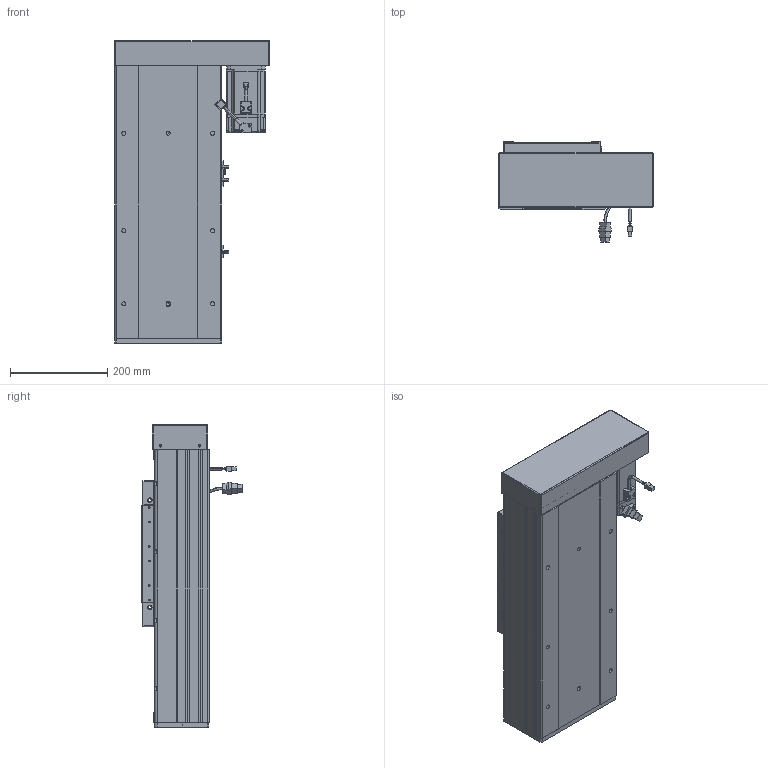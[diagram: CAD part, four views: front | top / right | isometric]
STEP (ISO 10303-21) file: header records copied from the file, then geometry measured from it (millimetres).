
FILE_DESCRIPTION (( 'STEP AP203' ), '1' );
FILE_NAME ('RY220F-L2525-300-RK.SLDASM_150.step', '2022-07-04T01:34:40', ( '' ), ( '' ), 'SwSTEP 2.0', 'SolidWorks 2016', '' );
FILE_SCHEMA (( 'CONFIG_CONTROL_DESIGN' ));
Length unit declared in the file: millimetre
Products named in the file (15): RY220F-祥凄詩湍-蛌殏-300_150; RY220F蛌殏菁釱-300_150; 侐源滅袉蝶; RY220F-詩湍揤踡輸; RY220F-蛌殏奻裔啣-300_150; RY220左右折电机安装板; RY220F臏賑釱25-32佪裝; RY220F-672覜茼んえ; RY220酘衵殏萇儂欶; 怢湛750W_ECMA-CX0807ES; 滅袉蝶18-24; 覜茼ん672; RY220F-L2525-300-RK.SLDASM_150; RY220F-滅鳥奻裔; RY220F綴裔啣
Assembly tree (21 placements, depth 2):
  RY220F-L2525-300-RK.SLDASM_150
    RY220F蛌殏菁釱-300_150
    RY220F-蛌殏奻裔啣-300_150  x2
    怢湛750W_ECMA-CX0807ES
    RY220F臏賑釱25-32佪裝
    RY220F-滅鳥奻裔
    滅袉蝶18-24  x3
    RY220F綴裔啣
    RY220F-祥凄詩湍-蛌殏-300_150
    RY220F-詩湍揤踡輸  x2
    覜茼ん672  x3
    RY220F-672覜茼んえ
    RY220左右折电机安装板
    RY220酘衵殏萇儂欶
    侐源滅袉蝶  x2
Bounding box: 317.5 x 205.27 x 621 mm (x, y, z)
Volume: 7036291.1 mm3; surface area: 1821851 mm2
Topology: 22 solids, 22 shells, 2090 faces, 5712 edges, 3610 vertices
Faces by surface type: cylinder 920, plane 888, cone 215, bspline 41, sphere 16, torus 10
Entity records: 64004 total; most frequent: CARTESIAN_POINT 17894, ORIENTED_EDGE 9398, DIRECTION 8946, EDGE_CURVE 4699, AXIS2_PLACEMENT_3D 3139, VERTEX_POINT 3052, VECTOR 2668, LINE 2668
